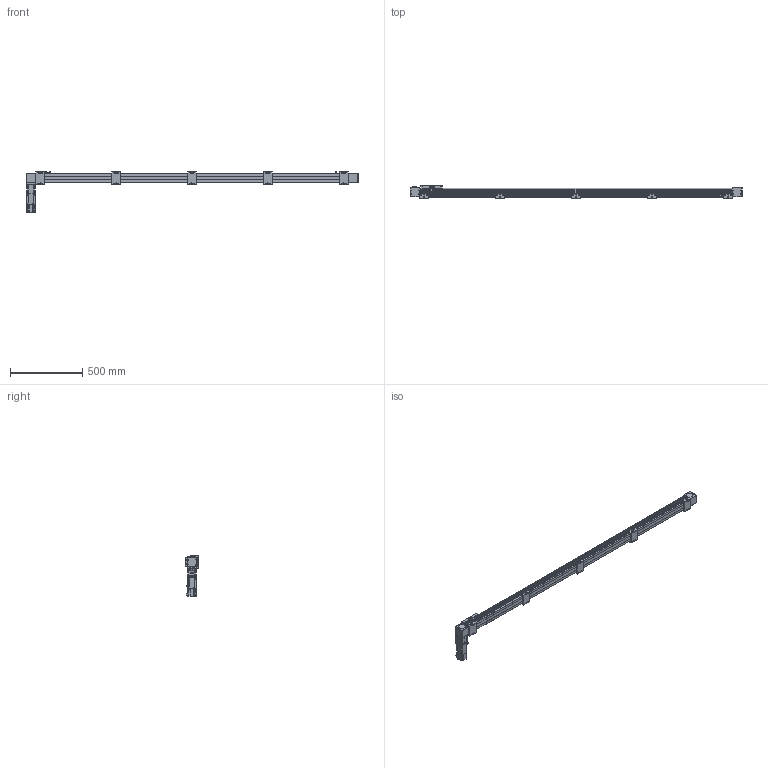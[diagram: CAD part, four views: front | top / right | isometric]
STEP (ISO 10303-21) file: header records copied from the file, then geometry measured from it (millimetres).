
FILE_DESCRIPTION(/* description */ ('STEP AP203'),/* implementation_level */ '2;1');
FILE_NAME(/* name */ 'SK60-P13-S2000-BR-T40-C1-N(0)',/* time_stamp */ '2023-04-06T04:00:35+02:00',/* author */ ('License CC BY-ND 4.0'),/* organization */ ('CADENAS'),/* preprocessor_version */ 'ST-DEVELOPER v19.3',/* originating_system */ 'PARTsolutions',/* authorisation */ ' ');
FILE_SCHEMA (('CONFIG_CONTROL_DESIGN'));
Length unit declared in the file: millimetre
Products named in the file (11): SK60-P13-S2000-BR-T40-C1-N(0); PSC140-sensor; SK60-S450_seat; SK60-S450-BL-C1_slider; SK60_body3; SK60_body6; SK60-BL_body2; T40-p1; SK60_body5; SK60_body4; SK60-S2000-BR-C1_body
Assembly tree (20 placements, depth 2):
  SK60-P13-S2000-BR-T40-C1-N(0)
    PSC140-sensor  x3
    SK60-S450_seat  x5
    SK60-S450-BL-C1_slider
    SK60_body3  x3
    SK60_body6  x2
    SK60-BL_body2  x2
    T40-p1
    SK60_body5
    SK60_body4
    SK60-S2000-BR-C1_body
Bounding box: 2300 x 90 x 279.1 mm (x, y, z)
Volume: 8458100.3 mm3; surface area: 1061988 mm2
Topology: 20 solids, 24 shells, 966 faces, 2403 edges, 1586 vertices
Faces by surface type: plane 616, cylinder 314, cone 34, torus 2
Full cylindrical faces by diameter (mm): 2.8 x3, 3.3 x4, 4.2 x8, 4.5 x26, 4.6 x3, 4.917 x28, 5 x2, 5.478 x4, 5.5 x31, 6.5 x10, 8 x4, 8.5 x4, 9.988 x4, 10 x20, 13.556 x1, 14 x1, 14.586 x1, 19.692 x1, 38.432 x2, 43 x1, 44 x3, 47 x2, 50 x2
Entity records: 19395 total; most frequent: DIRECTION 3298, CARTESIAN_POINT 3292, ORIENTED_EDGE 3050, EDGE_CURVE 1525, AXIS2_PLACEMENT_3D 1103, LINE 1092, VECTOR 1092, VERTEX_POINT 1077
